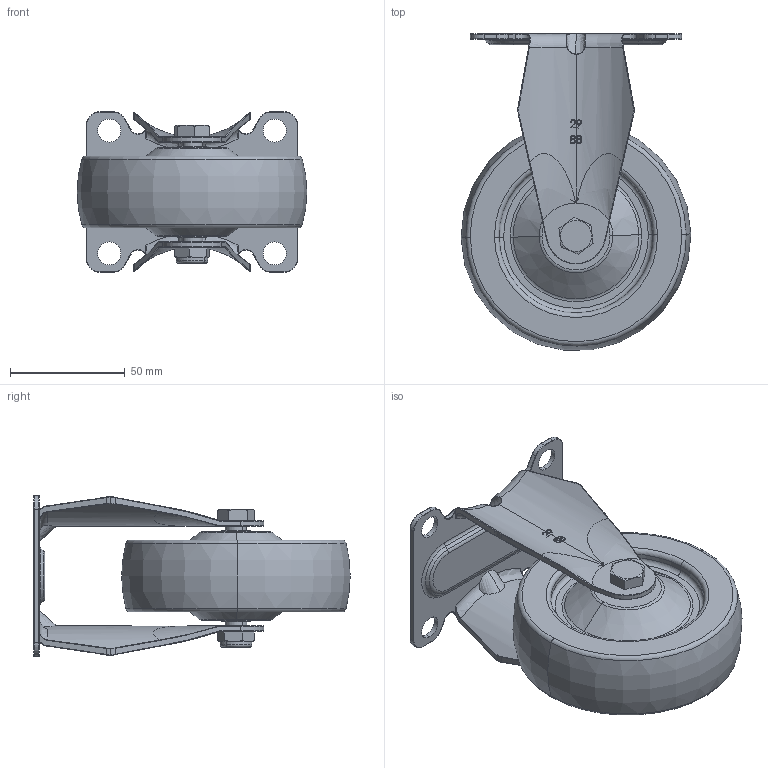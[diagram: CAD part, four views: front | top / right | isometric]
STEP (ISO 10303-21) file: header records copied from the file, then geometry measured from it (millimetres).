
FILE_DESCRIPTION (( 'STEP AP203' ), '1' );
FILE_NAME ('4112904001042.STEP', '2024-08-01T01:03:15', ( '' ), ( '' ), 'SwSTEP 2.0', 'SolidWorks 2019', '' );
FILE_SCHEMA (( 'CONFIG_CONTROL_DESIGN' ));
Length unit declared in the file: millimetre
Products named in the file (6): 242051240001 尼龍中管 O12.7xO9.8x40L; 412410400015 假肥仔輪-全軟 4''''; 4112904001042; 32129010400001 29系列固定架-電鍍 4''''(29-88)圓孔(孔距53x72)+2.3t; 245020900003 尼龍螺帽  3 8''''(對邊14x7L); 242020954001 4''''.5''''儀器.高級活動用車心 20240124A8
Assembly tree (5 placements, depth 2):
  4112904001042
    242020954001 4''''.5''''儀器.高級活動用車心 20240124A8
    245020900003 尼龍螺帽  3 8''''(對邊14x7L)
    412410400015 假肥仔輪-全軟 4''''
    32129010400001 29系列固定架-電鍍 4''''(29-88)圓孔(孔距53x72)+2.3t
    242051240001 尼龍中管 O12.7xO9.8x40L
Bounding box: 99.98 x 137.73 x 70 mm (x, y, z)
Volume: 256582.5 mm3; surface area: 61401.3 mm2
Topology: 5 solids, 5 shells, 358 faces, 886 edges, 547 vertices
Faces by surface type: cylinder 108, bspline 88, torus 68, plane 56, cone 28, sphere 10
Entity records: 16998 total; most frequent: CARTESIAN_POINT 8494, ORIENTED_EDGE 1748, DIRECTION 1558, EDGE_CURVE 874, AXIS2_PLACEMENT_3D 677, VERTEX_POINT 547, CIRCLE 399, EDGE_LOOP 397
